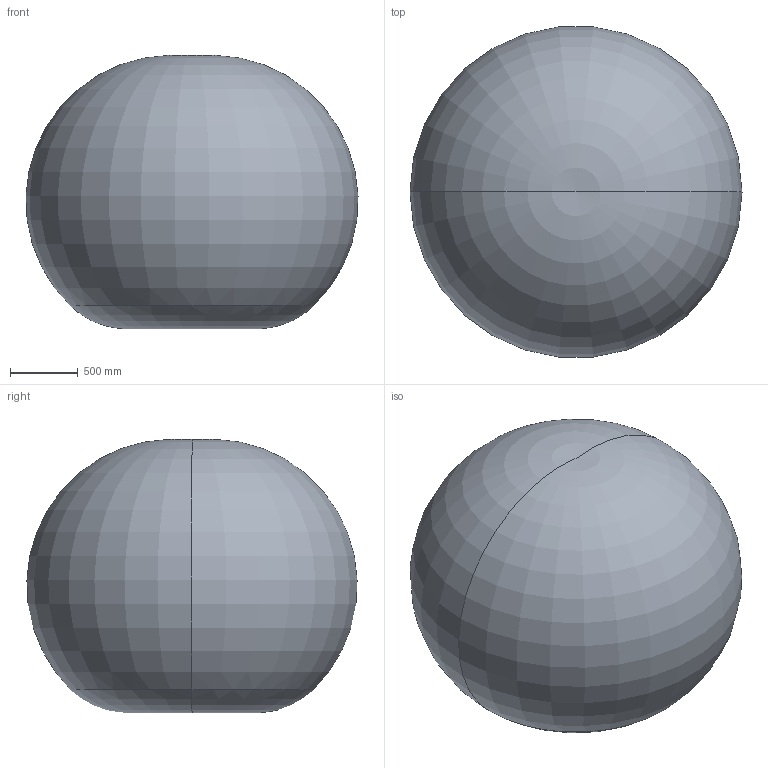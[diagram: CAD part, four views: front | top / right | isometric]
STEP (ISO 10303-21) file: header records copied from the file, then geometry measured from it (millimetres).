
FILE_DESCRIPTION (( 'STEP AP214' ), '1' );
FILE_NAME ('IRB1600_X-120_working space.STEP', '2025-11-25T07:28:14', ( '' ), ( '' ), 'SwSTEP 2.0', 'SolidWorks 2024', '' );
FILE_SCHEMA (( 'AUTOMOTIVE_DESIGN' ));
Length unit declared in the file: millimetre
Products named in the file (1): IRB1600_X-120_working space
Bounding box: 2448.68 x 2435.27 x 2014.38 mm (x, y, z)
Volume: 6867780448.3 mm3; surface area: 18372619.4 mm2
Topology: 1 solids, 2 shells, 6 faces, 16 edges, 6 vertices
Faces by surface type: torus 6
Entity records: 157 total; most frequent: DIRECTION 30, CARTESIAN_POINT 21, ORIENTED_EDGE 16, AXIS2_PLACEMENT_3D 15, EDGE_CURVE 8, CIRCLE 8, FACE_OUTER_BOUND 6, ADVANCED_FACE 6
